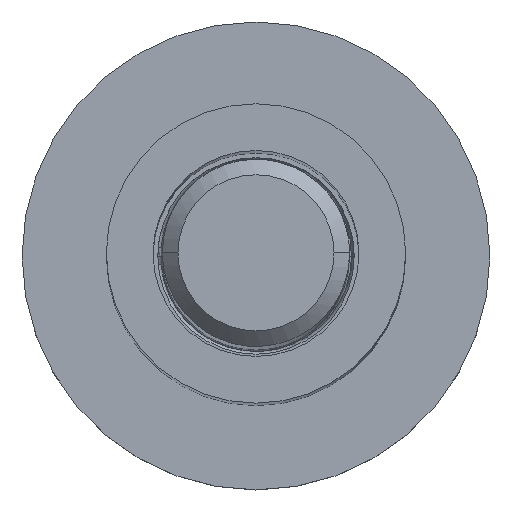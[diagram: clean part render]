
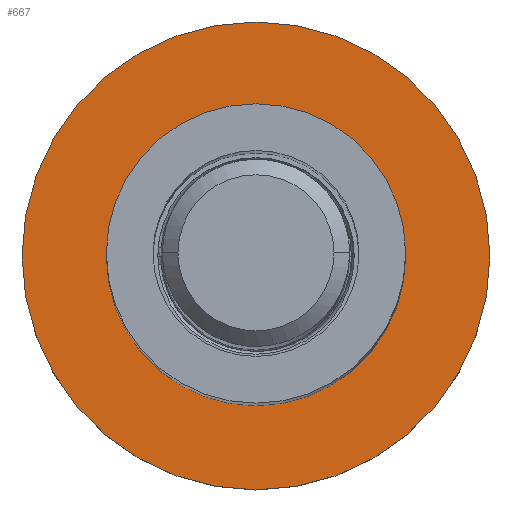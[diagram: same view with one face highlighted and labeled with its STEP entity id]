
A CAD part, top view. The second image highlights one B-rep face of the part: STEP entity #667.
In plain terms, the highlighted planar face has unit normal (0, 0, 1).
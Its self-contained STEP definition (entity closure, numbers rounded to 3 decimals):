
#358=CARTESIAN_POINT('Vertex',(12.5,0.,0.)) ;
#361=CARTESIAN_POINT('Axis2P3D Location',(0.,0.,0.)) ;
#365=CARTESIAN_POINT('Vertex',(-12.5,0.,0.)) ;
#385=CARTESIAN_POINT('Axis2P3D Location',(0.,0.,0.)) ;
#640=CARTESIAN_POINT('Axis2P3D Location',(0.,0.,0.)) ;
#649=CARTESIAN_POINT('Axis2P3D Location',(0.,0.,0.)) ;
#653=CARTESIAN_POINT('Vertex',(-8.,0.,0.)) ;
#655=CARTESIAN_POINT('Vertex',(8.,0.,0.)) ;
#658=CARTESIAN_POINT('Axis2P3D Location',(0.,0.,0.)) ;
#362=DIRECTION('Axis2P3D Direction',(-0.,0.,-1.)) ;
#386=DIRECTION('Axis2P3D Direction',(-0.,0.,-1.)) ;
#641=DIRECTION('Axis2P3D Direction',(0.,0.,1.)) ;
#642=DIRECTION('Axis2P3D XDirection',(1.,0.,-0.)) ;
#650=DIRECTION('Axis2P3D Direction',(0.,0.,1.)) ;
#659=DIRECTION('Axis2P3D Direction',(0.,0.,1.)) ;
#363=AXIS2_PLACEMENT_3D('Circle Axis2P3D',#361,#362,$) ;
#387=AXIS2_PLACEMENT_3D('Circle Axis2P3D',#385,#386,$) ;
#643=AXIS2_PLACEMENT_3D('Plane Axis2P3D',#640,#641,#642) ;
#651=AXIS2_PLACEMENT_3D('Circle Axis2P3D',#649,#650,$) ;
#660=AXIS2_PLACEMENT_3D('Circle Axis2P3D',#658,#659,$) ;
#646=ORIENTED_EDGE('',*,*,#367,.T.) ;
#647=ORIENTED_EDGE('',*,*,#389,.T.) ;
#664=ORIENTED_EDGE('',*,*,#657,.F.) ;
#665=ORIENTED_EDGE('',*,*,#662,.F.) ;
#666=FACE_BOUND('',#663,.T.) ;
#667=ADVANCED_FACE('Sposta faccia1',(#648,#666),#644,.T.) ;
#364=CIRCLE('generated circle',#363,12.5) ;
#388=CIRCLE('generated circle',#387,12.5) ;
#652=CIRCLE('generated circle',#651,8.) ;
#661=CIRCLE('generated circle',#660,8.) ;
#367=EDGE_CURVE('',#366,#359,#364,.F.) ;
#389=EDGE_CURVE('',#359,#366,#388,.F.) ;
#657=EDGE_CURVE('',#654,#656,#652,.T.) ;
#662=EDGE_CURVE('',#656,#654,#661,.T.) ;
#645=EDGE_LOOP('',(#646,#647)) ;
#663=EDGE_LOOP('',(#664,#665)) ;
#648=FACE_OUTER_BOUND('',#645,.T.) ;
#644=PLANE('Plane',#643) ;
#359=VERTEX_POINT('',#358) ;
#366=VERTEX_POINT('',#365) ;
#654=VERTEX_POINT('',#653) ;
#656=VERTEX_POINT('',#655) ;
